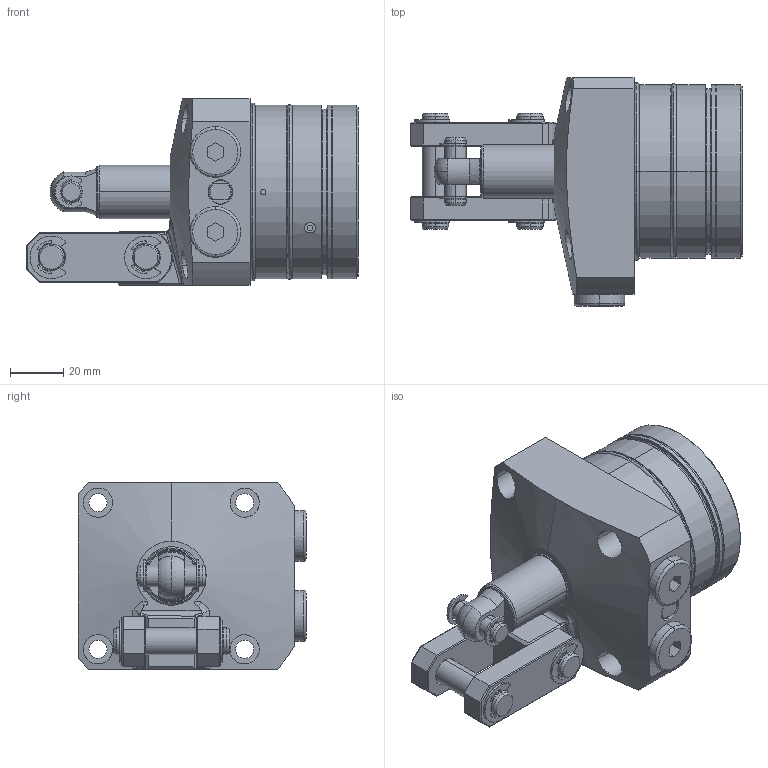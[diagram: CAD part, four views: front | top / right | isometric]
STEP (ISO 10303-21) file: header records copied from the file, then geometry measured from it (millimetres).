
FILE_DESCRIPTION(/* description */ (''),/* implementation_level */ '2;1');
FILE_NAME(/* name */ 'KTPW65-LH.stp',/* time_stamp */ '2022-11-19T16:54:00+08:00',/* author */ (''),/* organization */ (''),/* preprocessor_version */ 'ST-DEVELOPER v16.7',/* originating_system */ 'SIEMENS PLM Software NX 12.0',/* authorisation */ '');
FILE_SCHEMA (('AP203_CONFIGURATION_CONTROLLED_3D_DESIGN_OF_MECHANICAL_PARTS_AND_ASSEMBLIES_MIM_LF { 1 0 10303 403 2 1 2}'));
Length unit declared in the file: millimetre
Products named in the file (11): KTPW65-LH-03; KTPW65-LH-01; KTPW65-LH-09; KTPW65-LH-08; KTPW65-LH-02; KTPW65-LH-04; KTPW65-LH-06; KTPW65-LH-05; KTPW65-LH-07; KTPW65-LH-010; KTPC65-LH_stp
Assembly tree (19 placements, depth 2):
  KTPC65-LH_stp
    KTPW65-LH-010  x3
    KTPW65-LH-07  x4
    KTPW65-LH-05  x2
    KTPW65-LH-06
    KTPW65-LH-04  x2
    KTPW65-LH-02
    KTPW65-LH-08  x2
    KTPW65-LH-09  x2
    KTPW65-LH-01
    KTPW65-LH-03
Bounding box: 124.5 x 85.5 x 70 mm (x, y, z)
Volume: 312492.3 mm3; surface area: 62976.2 mm2
Topology: 21 solids, 21 shells, 686 faces, 1588 edges, 984 vertices
Faces by surface type: cylinder 266, plane 205, torus 124, cone 79, bspline 10, sphere 2
Full cylindrical faces by diameter (mm): 65 x1
Entity records: 14227 total; most frequent: CARTESIAN_POINT 2970, DIRECTION 2236, ORIENTED_EDGE 1896, EDGE_CURVE 948, AXIS2_PLACEMENT_3D 934, VERTEX_POINT 584, CIRCLE 503, EDGE_LOOP 476
